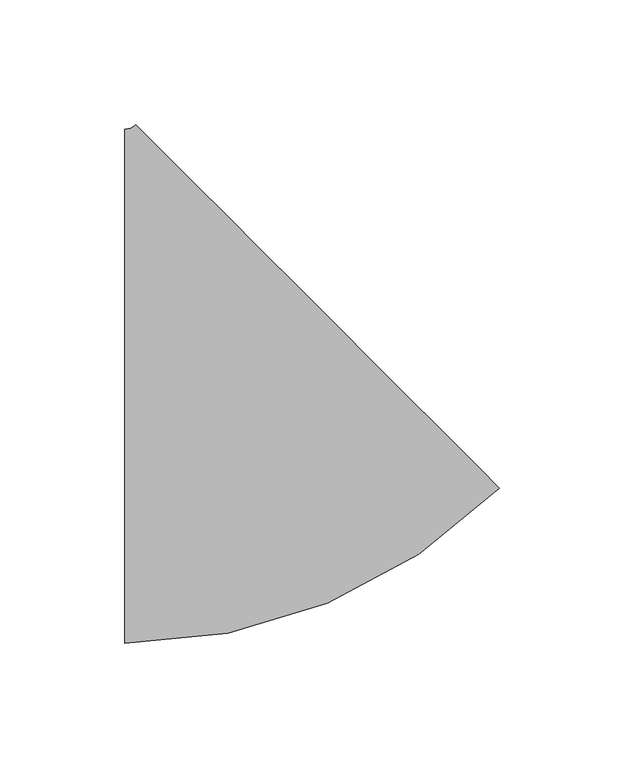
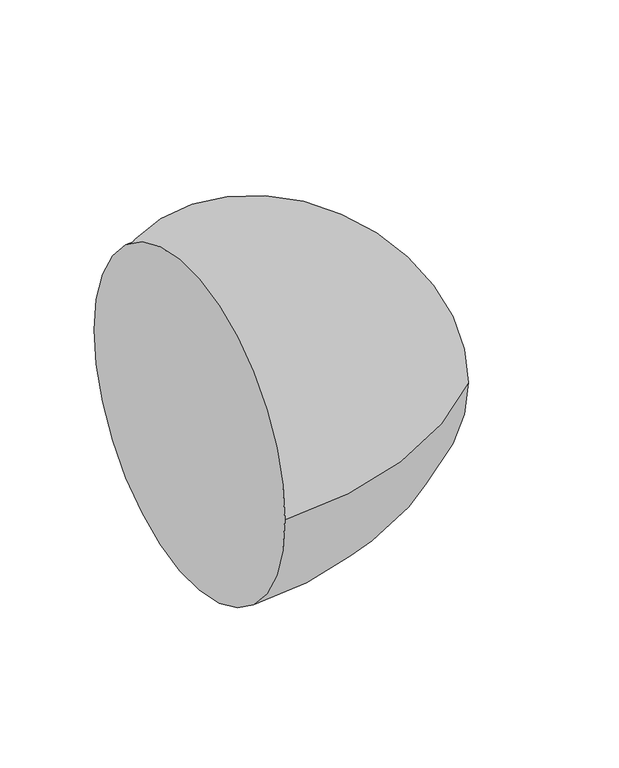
"""IFC4 building model written with IfcOpenShell, lengths in millimetres: pipe fitting geometry, M_Codo - Genérico : Estándar."""

from ifc_helpers import new_model, si_unit, point, frame, origin, place, context, project, spatial, circle_curve, ellipse_curve, trimmed, source, transform, mapped, element, save
from ifc_brep_helpers import plane_surface, revolved_surface, advanced_brep


def pipe_fitting_c8b089c1(model_context):
    return source(origin(), model_context, "Body", "AdvancedBrep", [
        advanced_brep(
        [(-45.3719181, -103.1875, 0.0), (-45.3719181, 103.1875, 0.0), (105.0473719, -40.88179, 0.0), (-40.88179, 105.0473719, 0.0)],
        [
            (0, 1, circle_curve(frame((-45.3719181, 0.0, 0.0), z_axis=(-1.0, 0.0, 0.0), x_axis=(0.0, 1.0, 0.0)), 103.1875)),
            (1, 0, circle_curve(frame((-45.3719181, 0.0, 0.0), z_axis=(-1.0, 0.0, 0.0), x_axis=(0.0, 1.0, 0.0)), 103.1875)),
            (2, 3, circle_curve(frame((32.082791, 32.082791, 0.0), z_axis=(0.7071067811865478, 0.7071067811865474, 0.0), x_axis=(-0.7071067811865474, 0.7071067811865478, 0.0)), 103.1875)),
            (3, 2, circle_curve(frame((32.082791, 32.082791, 0.0), z_axis=(0.7071067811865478, 0.7071067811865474, 0.0), x_axis=(-0.7071067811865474, 0.7071067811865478, 0.0)), 103.1875)),
            (3, 1, circle_curve(frame((-45.3719181, 109.5375, 0.0), z_axis=(0.0, 0.0, -1.0), x_axis=(0.0, -1.0, 0.0)), 6.35)),
            (0, 2, circle_curve(frame((-45.3719181, 109.5375, 0.0), z_axis=(0.0, 0.0, 1.0), x_axis=(0.0, -1.0, 0.0)), 212.725)),
        ],
        [
            plane_surface(frame((-45.3719181, 0.0, 0.0), z_axis=(-1.0, 0.0, 0.0), x_axis=(0.0, 0.0, 1.0))),
            plane_surface(frame((32.082791, 32.082791, 0.0), z_axis=(0.7071067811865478, 0.7071067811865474, 0.0), x_axis=(0.0, 0.0, 1.0))),
            revolved_surface(trimmed(ellipse_curve(frame((-45.3719181, 0.0, 0.0), z_axis=(-1.0, 0.0, 0.0), x_axis=(0.0, 1.0, 0.0)), 103.1875, 103.1875), [point((-45.3719181, -103.1875, 0.0))], [point((-45.3719181, 103.1875, 0.0))], True, "CARTESIAN"), (-45.3719181, 109.5375, 0.0), (0.0, 0.0, 1.0)),
            revolved_surface(trimmed(ellipse_curve(frame((-45.3719181, 0.0, 0.0), z_axis=(-1.0, 0.0, 0.0), x_axis=(0.0, 1.0, 0.0)), 103.1875, 103.1875), [point((-45.3719181, 103.1875, 0.0))], [point((-45.3719181, -103.1875, 0.0))], True, "CARTESIAN"), (-45.3719181, 109.5375, 0.0), (0.0, 0.0, 1.0)),
        ],
        [
            (0, [[1, 2]]),
            (1, [[3, 4]]),
            (2, [[5, -1, 6, -4]]),
            (3, [[-6, -2, -5, -3]]),
        ],
    ),
    ])


if __name__ == "__main__":
    model = new_model("IFC4")
    model_context = context("Model", 3, world=origin())
    ifc_project = project(units=[si_unit("LENGTHUNIT", "METRE", prefix="MILLI")], contexts=[model_context])
    site = spatial("IfcSite", under=ifc_project)
    building = spatial("IfcBuilding", under=site)
    placement = place(None, origin())
    pipe_fitting_shape = pipe_fitting_c8b089c1(model_context)
    element("IfcPipeFitting", 1, ObjectType="M_Codo - Genérico : Estándar", at=placement, inside=building, context=model_context, shape_type="MappedRepresentation", body=[
        mapped(pipe_fitting_shape, transform((0.0, 0.0, 0.0), x_axis=(1.0, 0.0, 0.0), y_axis=(0.0, 1.0, 0.0), z_axis=(0.0, 0.0, 1.0))),
    ])
    save(model, "model.ifc")
